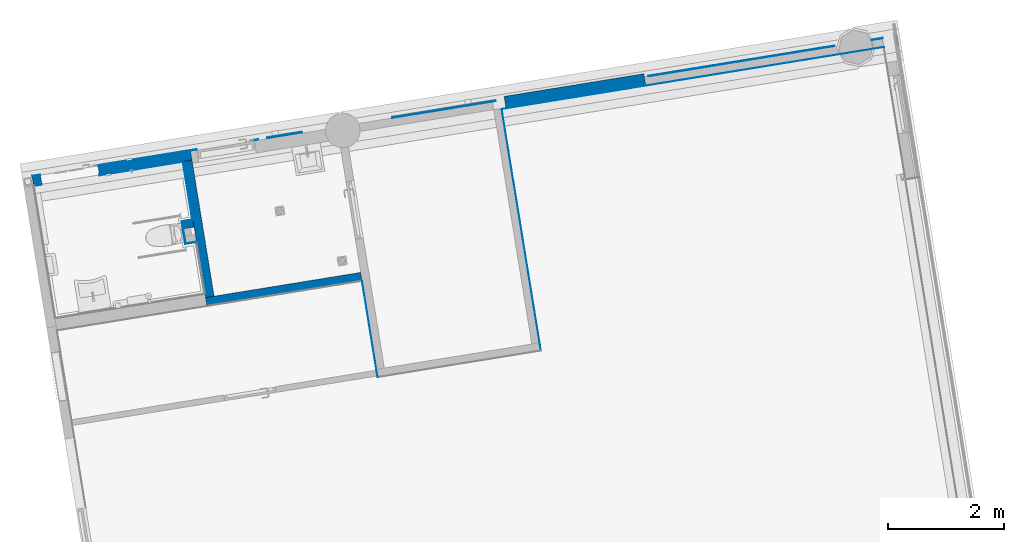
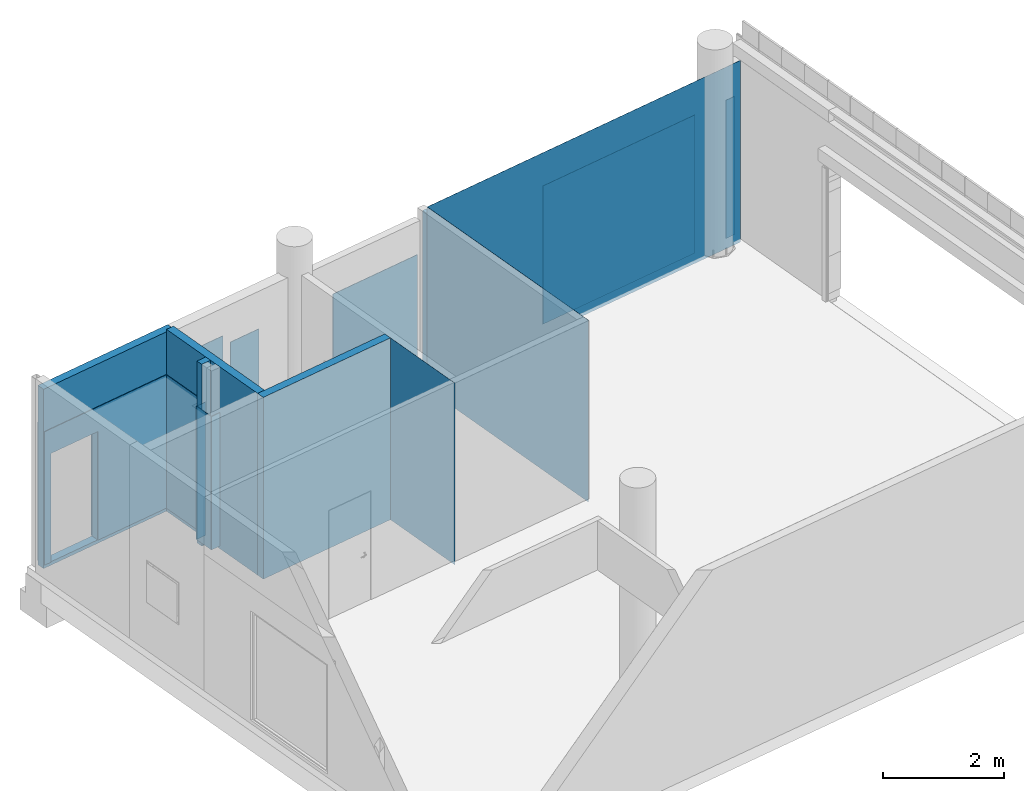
# One storey, part 16 of 38: 18 walls, 5 openings.
"""IFC2X3 building model written with IfcOpenShell, lengths in millimetres."""

from ifc_helpers import new_model, entity, si_unit, converted_unit, derived_unit, direction, frame, frame_2d, origin, origin_with_axes, place, context, subcontext, project, spatial, rectangle, extrude, material, layer, layer_set, layer_usage, type_object, element, save


model = new_model("IFC2X3")

# Units and contexts
model_context = context("Model", 3, precision=0.01, world=origin(), true_north=direction((6.12323399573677e-17, 1.0)))
plan_context = context("Plan", 3, precision=1e-05, world=origin_with_axes())
body_context = subcontext(model_context, "Body", "Model", "MODEL_VIEW")
ifc_project = project(units=[converted_unit("PLANEANGLEUNIT", "DEGREE", entity("IfcPositiveLengthMeasure", 0.0174532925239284), si_unit("PLANEANGLEUNIT", "RADIAN"), dimensions=[0, 0, 0, 0, 0, 0, 0]), si_unit("AREAUNIT", "SQUARE_METRE"), si_unit("LENGTHUNIT", "METRE", prefix="MILLI"), si_unit("MASSUNIT", "GRAM", prefix="KILO"), si_unit("POWERUNIT", "WATT"), si_unit("PRESSUREUNIT", "PASCAL", prefix="KILO"), si_unit("FORCEUNIT", "NEWTON", prefix="KILO"), si_unit("ELECTRICVOLTAGEUNIT", "VOLT"), si_unit("ELECTRICCURRENTUNIT", "AMPERE"), si_unit("THERMODYNAMICTEMPERATUREUNIT", "DEGREE_CELSIUS"), si_unit("TIMEUNIT", "SECOND"), si_unit("VOLUMEUNIT", "CUBIC_METRE"), derived_unit("LINEARVELOCITYUNIT", [(si_unit("LENGTHUNIT", "METRE"), 1), (si_unit("TIMEUNIT", "SECOND"), -1)]), derived_unit("VOLUMETRICFLOWRATEUNIT", [(si_unit("VOLUMEUNIT", "CUBIC_METRE"), 1), (si_unit("TIMEUNIT", "SECOND"), -1)]), derived_unit("THERMALTRANSMITTANCEUNIT", [(si_unit("POWERUNIT", "WATT"), 1), (si_unit("THERMODYNAMICTEMPERATUREUNIT", "KELVIN"), -1), (si_unit("AREAUNIT", "SQUARE_METRE"), -1)]), derived_unit("SOUNDPRESSUREUNIT", [(si_unit("PRESSUREUNIT", "PASCAL"), 1)])], contexts=[model_context, plan_context])

# Site, building, storey
site_placement = place(None, frame((-0.00071070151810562, 0.00438415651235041, 0.0), z_axis=(0.0, 0.0, 1.0), x_axis=(-0.160236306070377, 0.987078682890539, 0.0)))
site = spatial("IfcSite", under=ifc_project, at=site_placement, Name="Default", CompositionType="ELEMENT")
building_placement = place(site_placement, origin_with_axes())
building = spatial("IfcBuilding", under=site, at=building_placement, Name="TOO", CompositionType="ELEMENT")
storey_placement = place(building_placement, frame((0.0, 0.0, 50999.9999999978), z_axis=(0.0, 0.0, 1.0), x_axis=(1.0, 0.0, 0.0)))
storey = spatial("IfcBuildingStorey", under=building, at=storey_placement, Name="Nivå D-H01", CompositionType="ELEMENT", Elevation=50999.9999999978)

# Walls
ifc_material_1 = material(Name="A240 - Gipsplate")
ifc_layer_1 = layer(ifc_material_1, 12.5)
ifc_layer_2 = layer(ifc_material_1, 12.5)
ifc_material_2 = material(Name="A200 - Isolasjon - Rock Wool")
ifc_layer_3 = layer(ifc_material_2, 160.0)
ifc_layer_4 = layer(ifc_material_1, 12.5)
ifc_layer_5 = layer(ifc_material_1, 12.5)
ifc_layer_set_1 = layer_set([ifc_layer_1, ifc_layer_2, ifc_layer_3, ifc_layer_4, ifc_layer_5], Name="Basic Wall:A242 - GG160/100GG")
ifc_layer_usage_1 = layer_usage(ifc_layer_set_1, "AXIS2", "NEGATIVE", 105.0)
wall_type_1 = type_object("IfcWallType", Name="Basic Wall:A242 - GG160/100GG", PredefinedType="STANDARD", material=ifc_layer_set_1)
wall_1_placement = place(storey_placement, frame((779907.619644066, -597352.481738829, -70.0), z_axis=(0.0, 0.0, 1.0), x_axis=(0.0, -1.0, 0.0)))
element("IfcWallStandardCase", 1, at=wall_1_placement, inside=storey, type_object=wall_type_1, material=ifc_layer_usage_1, Name="Basic Wall:A242 - GG160/100GG", ObjectType="Basic Wall:A242 - GG160/100GG", context=body_context, shape_type="SweptSolid", body=[
    extrude(rectangle(XDim=2452.49876000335, YDim=209.999999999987, at=frame_2d((1226.24938000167, 0.0), x_axis=(-1.0, 0.0))), origin(), (0.0, 0.0, 1.0), 3460.00000000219),
])
ifc_layer_6 = layer(ifc_material_1, 12.5)
ifc_layer_7 = layer(ifc_material_1, 12.5)
ifc_layer_8 = layer(ifc_material_2, 100.0)
ifc_layer_9 = layer(ifc_material_1, 12.5)
ifc_layer_10 = layer(ifc_material_1, 12.5)
ifc_layer_set_2 = layer_set([ifc_layer_6, ifc_layer_7, ifc_layer_8, ifc_layer_9, ifc_layer_10], Name="Basic Wall:A242 - GG100/100GG")
ifc_layer_usage_2 = layer_usage(ifc_layer_set_2, "AXIS2", "NEGATIVE", 75.0)
wall_type_2 = type_object("IfcWallType", Name="Basic Wall:A242 - GG100/100GG", PredefinedType="STANDARD", material=ifc_layer_set_2)
wall_2_placement = place(storey_placement, frame((777327.619644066, -594414.980498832, -70.0), z_axis=(0.0, 0.0, 1.0), x_axis=(0.0, 1.0, 0.0)))
element("IfcWallStandardCase", 2, at=wall_2_placement, inside=storey, type_object=wall_type_2, material=ifc_layer_usage_2, Name="Basic Wall:A242 - GG100/100GG", ObjectType="Basic Wall:A242 - GG100/100GG", context=body_context, shape_type="SweptSolid", body=[
    extrude(rectangle(XDim=2722.49876000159, YDim=150.00000000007, at=frame_2d((1361.24938000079, 4.56168436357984e-12), x_axis=(-1.0, 0.0))), origin(), (0.0, 0.0, 1.0), 3680.00000000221),
])
ifc_layer_usage_3 = layer_usage(ifc_layer_set_2, "AXIS2", "NEGATIVE", 75.0)
wall_3_placement = place(storey_placement, frame((777402.619644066, -591767.48173883, -70.0), z_axis=(0.0, 0.0, 1.0), x_axis=(1.0, 0.0, 0.0)))
element("IfcWallStandardCase", 3, at=wall_3_placement, inside=storey, type_object=wall_type_2, material=ifc_layer_usage_3, Name="Basic Wall:A242 - GG100/100GG", ObjectType="Basic Wall:A242 - GG100/100GG", context=body_context, shape_type="SweptSolid", body=[
    extrude(rectangle(XDim=2390.00000000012, YDim=149.999999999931, at=frame_2d((1195.00000000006, 0.0), x_axis=(-1.0, 0.0))), origin(), (0.0, 0.0, 1.0), 3680.00000000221),
])

# Wall, openings
ifc_layer_usage_4 = layer_usage(ifc_layer_set_2, "AXIS2", "NEGATIVE", 75.0)
wall_4_placement = place(storey_placement, frame((779867.619644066, -591842.481738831, -70.0), z_axis=(0.0, 0.0, 1.0), x_axis=(0.0, 1.0, 0.0)))
wall_4 = element("IfcWallStandardCase", 4, at=wall_4_placement, inside=storey, type_object=wall_type_2, material=ifc_layer_usage_4, Name="Basic Wall:A242 - GG100/100GG", ObjectType="Basic Wall:A242 - GG100/100GG", context=body_context, shape_type="SweptSolid", body=[
    extrude(rectangle(XDim=2779.99999999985, YDim=150.00000000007, at=frame_2d((1389.99999999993, 4.66116034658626e-12), x_axis=(-1.0, 0.0))), origin(), (0.0, 0.0, 1.0), 3630.00000000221),
])
opening_1_placement = place(wall_4_placement, frame((2632.84350750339, 75.0, 70.0), z_axis=(0.0, 0.0, 1.0), x_axis=(1.0, 0.0, 0.0)))
element("IfcOpeningElement", 5, at=opening_1_placement, cuts=wall_4, Name="A200 - Slagdør - Enfløyet:A244 - DI_LSO - 0990 x 2190 mm:1", ObjectType="Opening", context=body_context, shape_type="SweptSolid", body=[
    extrude(rectangle(XDim=2199.99999999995, YDim=1010.0, at=frame_2d((1099.99999999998, 504.999999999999), x_axis=(1.0, 0.0))), frame((0.0, 0.0, 0.0), z_axis=(0.0, -1.0, 0.0), x_axis=(0.0, 0.0, 1.0)), (0.0, 0.0, 1.0), 150.0),
])
opening_2_placement = place(wall_4_placement, frame((591842.481738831, 779867.619644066, 70.0), z_axis=(0.0, 0.0, 1.0), x_axis=(0.0, -1.0, 0.0)))
element("IfcOpeningElement", 6, at=opening_2_placement, cuts=wall_4, Name="Basic Wall:A242 - GG100/100GG", ObjectType="Opening", context=body_context, shape_type="SweptSolid", body=[
    extrude(rectangle(XDim=2199.99999999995, YDim=1009.99999999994, at=frame_2d((6.93205493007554e-11, 0.0), x_axis=(0.0, 1.0))), frame((781316.619644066, -589714.638231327, 1100.0), z_axis=(-1.0, 0.0, 0.0), x_axis=(0.0, -1.0, 0.0)), (0.0, 0.0, 1.0), 3048.0),
])

# Walls
ifc_layer_11 = layer(ifc_material_1, 12.5)
ifc_layer_12 = layer(ifc_material_1, 12.5)
ifc_material_3 = material(Name="A240 - Stenderverk - Usiolert")
ifc_layer_13 = layer(ifc_material_3, 100.0)
ifc_layer_set_3 = layer_set([ifc_layer_11, ifc_layer_12, ifc_layer_13], Name="Basic Wall:A242 - GG100/0")
ifc_layer_usage_5 = layer_usage(ifc_layer_set_3, "AXIS2", "NEGATIVE", 62.5)
wall_type_3 = type_object("IfcWallType", Name="Basic Wall:A242 - GG100/0", PredefinedType="STANDARD", material=ifc_layer_set_3)
wall_5_placement = place(storey_placement, frame((778700.119644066, -591505.428723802, -70.0), z_axis=(0.0, 0.0, 1.0), x_axis=(0.0, -1.0, 0.0)))
element("IfcWallStandardCase", 7, at=wall_5_placement, inside=storey, type_object=wall_type_3, material=ifc_layer_usage_5, Name="Basic Wall:A242 - GG100/0", ObjectType="Basic Wall:A242 - GG100/0", context=body_context, shape_type="SweptSolid", body=[
    extrude(rectangle(XDim=187.053015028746, YDim=125.000000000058, at=frame_2d((93.5265075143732, 0.0), x_axis=(-1.0, 0.0))), origin(), (0.0, 0.0, 1.0), 3680.00000000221),
])
ifc_material_4 = material(Name="246-F02")
ifc_layer_14 = layer(ifc_material_4, 10.0)
ifc_layer_set_4 = layer_set([ifc_layer_14], Name="Basic Wall:A246 - F02 - 900 x 300")
ifc_layer_usage_6 = layer_usage(ifc_layer_set_4, "AXIS2", "NEGATIVE", 5.0)
wall_type_4 = type_object("IfcWallType", Name="Basic Wall:A246 - F02 - 900 x 300", PredefinedType="STANDARD", material=ifc_layer_set_4)
wall_6_placement = place(storey_placement, frame((778377.619644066, -591682.48173883, 0.0), z_axis=(0.0, 0.0, 1.0), x_axis=(0.0, 1.0, 0.0)))
element("IfcWallStandardCase", 8, at=wall_6_placement, inside=storey, type_object=wall_type_4, material=ifc_layer_usage_6, Name="Basic Wall:A246 - F02 - 900 x 300", ObjectType="Basic Wall:A246 - F02 - 900 x 300", context=body_context, shape_type="SweptSolid", body=[
    extrude(rectangle(XDim=187.053015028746, YDim=9.99999999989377, at=frame_2d((93.5265075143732, 0.0), x_axis=(-1.0, 0.0))), origin(), (0.0, 0.0, 1.0), 2700.00000000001),
])
ifc_layer_usage_7 = layer_usage(ifc_layer_set_4, "AXIS2", "NEGATIVE", 5.0)
wall_7_placement = place(storey_placement, frame((778382.619644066, -591500.428723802, 0.0), z_axis=(0.0, 0.0, 1.0), x_axis=(1.0, 0.0, 0.0)))
element("IfcWallStandardCase", 9, at=wall_7_placement, inside=storey, type_object=wall_type_4, material=ifc_layer_usage_7, Name="Basic Wall:A246 - F02 - 900 x 300", ObjectType="Basic Wall:A246 - F02 - 900 x 300", context=body_context, shape_type="SweptSolid", body=[
    extrude(rectangle(XDim=390.000000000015, YDim=10.0000000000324, at=frame_2d((195.000000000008, 0.0), x_axis=(-1.0, 0.0))), origin(), (0.0, 0.0, 1.0), 2700.00000000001),
])
ifc_layer_usage_8 = layer_usage(ifc_layer_set_4, "AXIS2", "NEGATIVE", 5.0)
wall_8_placement = place(storey_placement, frame((778767.619644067, -591505.428723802, 0.0), z_axis=(0.0, 0.0, 1.0), x_axis=(0.0, -1.0, 0.0)))
element("IfcWallStandardCase", 10, at=wall_8_placement, inside=storey, type_object=wall_type_4, material=ifc_layer_usage_8, Name="Basic Wall:A246 - F02 - 900 x 300", ObjectType="Basic Wall:A246 - F02 - 900 x 300", context=body_context, shape_type="SweptSolid", body=[
    extrude(rectangle(XDim=187.053015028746, YDim=9.99999999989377, at=frame_2d((93.5265075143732, 0.0), x_axis=(-1.0, 0.0))), origin(), (0.0, 0.0, 1.0), 2700.00000000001),
])
ifc_layer_usage_9 = layer_usage(ifc_layer_set_4, "AXIS2", "NEGATIVE", 5.0)
wall_9_placement = place(storey_placement, frame((778772.619644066, -591687.48173883, 0.0), z_axis=(0.0, 0.0, 1.0), x_axis=(1.0, 0.0, 0.0)))
element("IfcWallStandardCase", 11, at=wall_9_placement, inside=storey, type_object=wall_type_4, material=ifc_layer_usage_9, Name="Basic Wall:A246 - F02 - 900 x 300", ObjectType="Basic Wall:A246 - F02 - 900 x 300", context=body_context, shape_type="SweptSolid", body=[
    extrude(rectangle(XDim=1019.99999999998, YDim=10.0000000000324, at=frame_2d((509.999999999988, 0.0), x_axis=(-1.0, 0.0))), origin(), (0.0, 0.0, 1.0), 2700.00000000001),
])

# Wall, opening
ifc_layer_usage_10 = layer_usage(ifc_layer_set_4, "AXIS2", "NEGATIVE", 5.0)
wall_10_placement = place(storey_placement, frame((779787.619644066, -591682.48173883, 0.0), z_axis=(0.0, 0.0, 1.0), x_axis=(0.0, 1.0, 0.0)))
wall_10 = element("IfcWallStandardCase", 12, at=wall_10_placement, inside=storey, type_object=wall_type_4, material=ifc_layer_usage_10, Name="Basic Wall:A246 - F02 - 900 x 300", ObjectType="Basic Wall:A246 - F02 - 900 x 300", context=body_context, shape_type="SweptSolid", body=[
    extrude(rectangle(XDim=2609.99999999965, YDim=10.0000000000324, at=frame_2d((1304.99999999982, -6.93032298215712e-11), x_axis=(1.0, 0.0))), origin(), (0.0, 0.0, 1.0), 2700.00000000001),
])
opening_3_placement = place(wall_10_placement, origin_with_axes())
element("IfcOpeningElement", 13, at=opening_3_placement, cuts=wall_10, Name="Basic Wall:A246 - F02 - 900 x 300", ObjectType="Opening", context=body_context, shape_type="SweptSolid", body=[
    extrude(rectangle(XDim=2199.99999999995, YDim=1009.99999999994, at=frame_2d((6.93205493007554e-11, 0.0), x_axis=(0.0, 1.0))), frame((1967.84350750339, -1529.0, 1100.0), z_axis=(0.0, 1.0, 0.0), x_axis=(-1.0, 0.0, 0.0)), (0.0, 0.0, 1.0), 3048.0),
])

# Wall, openings
ifc_layer_usage_11 = layer_usage(ifc_layer_set_4, "AXIS2", "NEGATIVE", 5.0)
wall_11_placement = place(storey_placement, frame((779957.619644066, -589072.481738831, 0.0), z_axis=(0.0, 0.0, 1.0), x_axis=(0.0, -1.0, 0.0)))
wall_11 = element("IfcWallStandardCase", 14, at=wall_11_placement, inside=storey, type_object=wall_type_4, material=ifc_layer_usage_11, Name="Basic Wall:A246 - F02 - 900 x 300", ObjectType="Basic Wall:A246 - F02 - 900 x 300", context=body_context, shape_type="SweptSolid", body=[
    extrude(rectangle(XDim=3957.24999999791, YDim=10.0000000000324, at=frame_2d((1978.62499999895, -7.05058234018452e-11), x_axis=(1.0, 0.0))), origin(), (0.0, 0.0, 1.0), 2800.0),
])
opening_4_placement = place(wall_11_placement, origin_with_axes())
element("IfcOpeningElement", 15, at=opening_4_placement, cuts=wall_11, Name="Basic Wall:A246 - F02 - 900 x 300", ObjectType="Opening", context=body_context, shape_type="SweptSolid", body=[
    extrude(rectangle(XDim=2200.0, YDim=1009.99999999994, at=frame_2d((0.0, -6.93205493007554e-11), x_axis=(1.0, 0.0))), frame((642.156492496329, -5.0, 1100.0), z_axis=(0.0, 1.0, 0.0), x_axis=(0.0, 0.0, -1.0)), (0.0, 0.0, 1.0), 9.99999999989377),
])
opening_5_placement = place(wall_11_placement, origin_with_axes())
element("IfcOpeningElement", 16, at=opening_5_placement, cuts=wall_11, Name="Basic Wall:A246 - F02 - 900 x 300", ObjectType="Opening", context=body_context, shape_type="SweptSolid", body=[
    extrude(rectangle(XDim=2200.0, YDim=1010.00000000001, at=frame_2d((0.0, -3.46744855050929e-11), x_axis=(1.0, 0.0))), frame((3385.0, -5.0, 1100.0), z_axis=(0.0, 1.0, 0.0), x_axis=(0.0, 0.0, -1.0)), (0.0, 0.0, 1.0), 9.99999999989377),
])

# Walls
ifc_layer_usage_12 = layer_usage(ifc_layer_set_4, "AXIS2", "NEGATIVE", 5.0)
wall_12_placement = place(storey_placement, frame((779957.619644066, -593189.731738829, 0.0), z_axis=(0.0, 0.0, 1.0), x_axis=(0.0, -1.0, 0.0)))
element("IfcWallStandardCase", 17, at=wall_12_placement, inside=storey, type_object=wall_type_4, material=ifc_layer_usage_12, Name="Basic Wall:A246 - F02 - 900 x 300", ObjectType="Basic Wall:A246 - F02 - 900 x 300", context=body_context, shape_type="SweptSolid", body=[
    extrude(rectangle(XDim=610.000000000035, YDim=9.99999999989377, at=frame_2d((305.000000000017, 0.0), x_axis=(-1.0, 0.0))), origin(), (0.0, 0.0, 1.0), 2600.0),
])
ifc_layer_usage_13 = layer_usage(ifc_layer_set_4, "AXIS2", "NEGATIVE", 5.0)
wall_13_placement = place(storey_placement, frame((779957.619644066, -595382.481738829, 0.0), z_axis=(0.0, 0.0, 1.0), x_axis=(0.0, -1.0, 0.0)))
element("IfcWallStandardCase", 18, at=wall_13_placement, inside=storey, type_object=wall_type_4, material=ifc_layer_usage_13, Name="Basic Wall:A246 - F02 - 900 x 300", ObjectType="Basic Wall:A246 - F02 - 900 x 300", context=body_context, shape_type="SweptSolid", body=[
    extrude(rectangle(XDim=1814.99999999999, YDim=9.99999999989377, at=frame_2d((907.499999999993, 0.0), x_axis=(-1.0, 0.0))), origin(), (0.0, 0.0, 1.0), 2600.0),
])
ifc_layer_usage_14 = layer_usage(ifc_layer_set_4, "AXIS2", "NEGATIVE", 5.0)
wall_14_placement = place(storey_placement, frame((779957.619644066, -599877.480498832, 0.0), z_axis=(0.0, 0.0, 1.0), x_axis=(0.0, -1.0, 0.0)))
element("IfcWallStandardCase", 19, at=wall_14_placement, inside=storey, type_object=wall_type_4, material=ifc_layer_usage_14, Name="Basic Wall:A246 - F02 - 900 x 300", ObjectType="Basic Wall:A246 - F02 - 900 x 300", context=body_context, shape_type="SweptSolid", body=[
    extrude(rectangle(XDim=3259.23173220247, YDim=9.99999999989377, at=frame_2d((1629.61586610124, 0.0), x_axis=(-1.0, 0.0))), origin(), (0.0, 0.0, 1.0), 2800.0),
])
ifc_layer_usage_15 = layer_usage(ifc_layer_set_4, "AXIS2", "NEGATIVE", 5.0)
wall_15_placement = place(storey_placement, frame((779957.619644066, -603792.954249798, 0.0), z_axis=(0.0, 0.0, 1.0), x_axis=(0.0, -1.0, 0.0)))
element("IfcWallStandardCase", 20, at=wall_15_placement, inside=storey, type_object=wall_type_4, material=ifc_layer_usage_15, Name="Basic Wall:A246 - F02 - 900 x 300", ObjectType="Basic Wall:A246 - F02 - 900 x 300", context=body_context, shape_type="SweptSolid", body=[
    extrude(rectangle(XDim=189.526249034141, YDim=9.99999999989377, at=frame_2d((94.7631245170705, 0.0), x_axis=(-1.0, 0.0))), origin(), (0.0, 0.0, 1.0), 2800.0),
])
ifc_material_5 = material(Name="A246 - ML01U _Maling kommers (302)")
ifc_layer_15 = layer(ifc_material_5, 2.0)
ifc_layer_set_5 = layer_set([ifc_layer_15], Name="Basic Wall:A246 - Maling KA")
ifc_layer_usage_16 = layer_usage(ifc_layer_set_5, "AXIS2", "NEGATIVE", 1.0)
wall_type_5 = type_object("IfcWallType", Name="Basic Wall:A246 - Maling KA", PredefinedType="STANDARD", material=ifc_layer_set_5)
wall_16_placement = place(storey_placement, frame((775565.119644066, -594413.980498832, -70.0), z_axis=(0.0, 0.0, 1.0), x_axis=(1.0, 0.0, 0.0)))
element("IfcWallStandardCase", 21, at=wall_16_placement, inside=storey, type_object=wall_type_5, material=ifc_layer_usage_16, Name="Basic Wall:A246 - Maling KA", ObjectType="Basic Wall:A246 - Maling KA", context=body_context, shape_type="SweptSolid", body=[
    extrude(rectangle(XDim=1685.50000000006, YDim=2.0000000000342, at=frame_2d((842.750000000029, 0.0), x_axis=(-1.0, 0.0))), origin(), (0.0, 0.0, 1.0), 3680.00000000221),
])
ifc_layer_usage_17 = layer_usage(ifc_layer_set_5, "AXIS2", "NEGATIVE", 1.0)
wall_17_placement = place(storey_placement, frame((779801.619644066, -597277.480498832, -70.0), z_axis=(0.0, 0.0, 1.0), x_axis=(0.0, -1.0, 0.0)))
element("IfcWallStandardCase", 22, at=wall_17_placement, inside=storey, type_object=wall_type_5, material=ifc_layer_usage_17, Name="Basic Wall:A246 - Maling KA", ObjectType="Basic Wall:A246 - Maling KA", context=body_context, shape_type="SweptSolid", body=[
    extrude(rectangle(XDim=6704.99999999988, YDim=2.0000000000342, at=frame_2d((3352.49999999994, 0.0), x_axis=(-1.0, 0.0))), origin(), (0.0, 0.0, 1.0), 3680.00000000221),
])
ifc_layer_usage_18 = layer_usage(ifc_layer_set_5, "AXIS2", "POSITIVE", -1.0)
wall_18_placement = place(storey_placement, frame((775565.119644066, -597278.480498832, -70.0), z_axis=(0.0, 0.0, 1.0), x_axis=(1.0, 0.0, 0.0)))
element("IfcWallStandardCase", 23, at=wall_18_placement, inside=storey, type_object=wall_type_5, material=ifc_layer_usage_18, Name="Basic Wall:A246 - Maling KA", ObjectType="Basic Wall:A246 - Maling KA", context=body_context, shape_type="SweptSolid", body=[
    extrude(rectangle(XDim=4235.5, YDim=2.0000000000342, at=frame_2d((2117.75, 0.0), x_axis=(-1.0, 0.0))), origin(), (0.0, 0.0, 1.0), 3680.00000000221),
])

save(model, "model.ifc")
